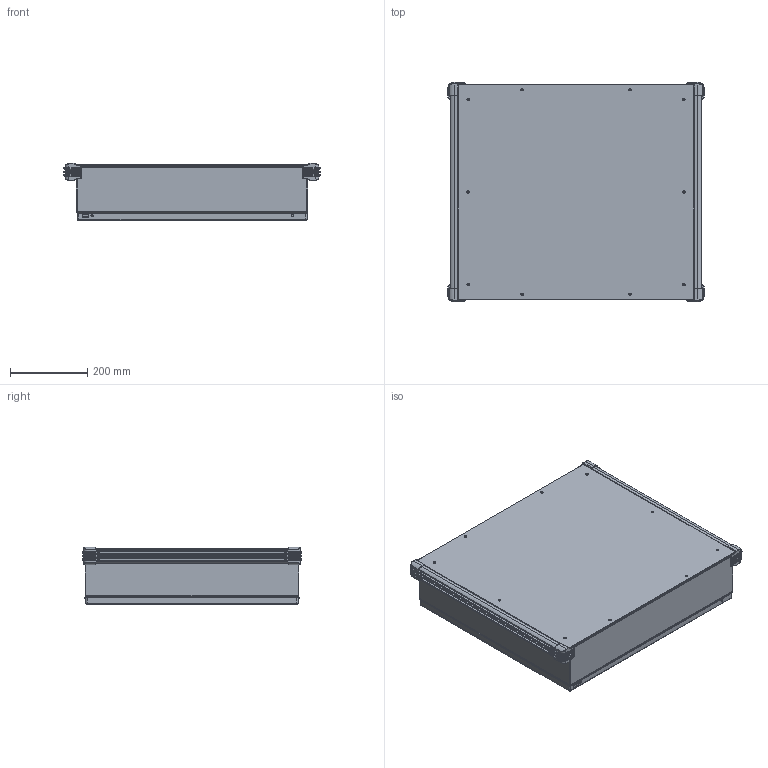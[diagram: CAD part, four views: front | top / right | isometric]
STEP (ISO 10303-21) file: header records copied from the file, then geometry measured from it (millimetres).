
FILE_DESCRIPTION (( 'STEP AP203' ), '1' );
FILE_NAME ('cp556012b.STEP', '2012-06-08T20:15:31', ( 'User' ), ( 'Pentair Inc' ), 'SwSTEP 2.0', 'SolidWorks 2010', '' );
FILE_SCHEMA (( 'CONFIG_CONTROL_DESIGN' ));
Length unit declared in the file: inch
Products named in the file (38): cp556012b; 89061138; 87789259_default; 99401225_Config-Drawing; 87938531_assy; 87938555_fip; 87938507; 87931362_87931362; 99401225; 87938567_87926013; 87921906_After Weld; 64101001; 64201001; 87541994_Installed Height; 87541995; 64202001; 64210001; 64203001; 87927840_87927840; 87932903; 64138001; 89061042; 87789227; 87541671_87541671; 87789178; 87789150; 87543027; 89076399; 89076193; 89056623; 87789746_ASSEMBLED; 89061399; 87792578; 87792576; 99416066; 87929507; 87929767; 87929769_Installed on Pin
Assembly tree (77 placements, depth 4):
  cp556012b
    89076399  x2
      89056623
      89076193
    87792576  x6
    87792578  x6
    99416066  x6
    87789178  x2
    87929507  x2
      87929767
      87929769_Installed on Pin
    89061138
      99401225_Config-Drawing  x3
      87789259_default
    87543027  x2
    87789150  x4
    87789746_ASSEMBLED
      89061399  x2
    89061042
      87541671_87541671  x10
      87789227
    87938531_assy
      64101001
        64203001
        87541994_Installed Height
        64202001
        64210001
        64201001
        87541995
        87927840_87927840
      64138001  x2
      87938555_fip
        87921906_After Weld  x4
        99401225
        87938567_87926013
        87938507
        87931362_87931362  x2
      87932903  x2
Bounding box: 664.31 x 568.88 x 149.3 mm (x, y, z)
Volume: 3281704.4 mm3; surface area: 2731364.8 mm2
Topology: 72 solids, 72 shells, 4350 faces, 10967 edges, 6746 vertices
Faces by surface type: plane 1777, cylinder 1417, bspline 444, torus 374, cone 286, sphere 52
Entity records: 68453 total; most frequent: CARTESIAN_POINT 20953, ORIENTED_EDGE 9092, DIRECTION 8533, EDGE_CURVE 4546, AXIS2_PLACEMENT_3D 3140, VERTEX_POINT 2812, VECTOR 2253, LINE 2253
